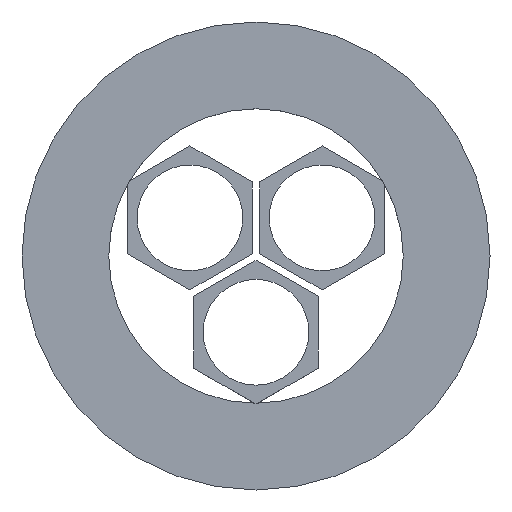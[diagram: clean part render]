
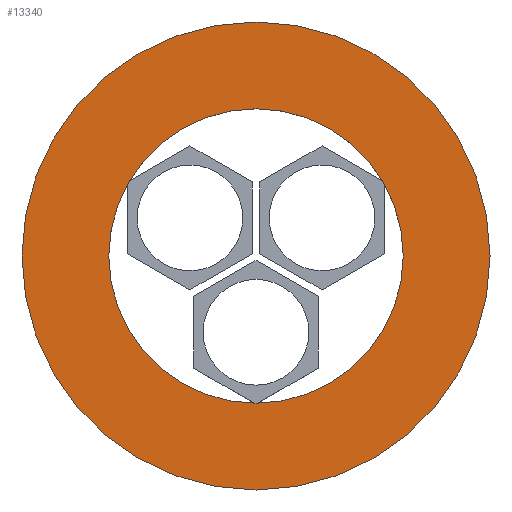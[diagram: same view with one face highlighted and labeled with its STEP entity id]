
A CAD part, front view. The second image highlights one B-rep face of the part: STEP entity #13340.
In plain terms, the highlighted planar face has unit normal (0, -1, 0).
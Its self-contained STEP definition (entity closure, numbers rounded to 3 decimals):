
#830=CARTESIAN_POINT('',(-69.654,193.131,
0.));
#840=VERTEX_POINT('',#830);
#1020=CARTESIAN_POINT('',(-30.654,193.131,
0.));
#1030=VERTEX_POINT('',#1020);
#1060=CARTESIAN_POINT('',(-50.154,193.131,
0.));
#1070=DIRECTION('',(0.,1.,0.));
#1080=DIRECTION('',(-1.,0.,0.));
#1090=AXIS2_PLACEMENT_3D('',#1060,#1070,#1080);
#1100=CIRCLE('',#1090,19.5);
#1110=EDGE_CURVE('',#1030,#840,#1100,.T.);
#13090=CARTESIAN_POINT('',(-34.654,193.131,
0.));
#13100=DIRECTION('',(0.,1.,0.));
#13110=DIRECTION('',(-1.,0.,0.));
#13120=AXIS2_PLACEMENT_3D('',#13090,#13100,#13110);
#13130=PLANE('',#13120);
#13140=CARTESIAN_POINT('',(-50.154,193.131,
0.));
#13150=DIRECTION('',(0.,1.,0.));
#13160=DIRECTION('',(1.,0.,0.));
#13170=AXIS2_PLACEMENT_3D('',#13140,#13150,#13160);
#13180=CIRCLE('',#13170,31.);
#13190=CARTESIAN_POINT('',(-19.154,193.131,
0.));
#13200=VERTEX_POINT('',#13190);
#13210=CARTESIAN_POINT('',(-81.154,193.131,
0.));
#13220=VERTEX_POINT('',#13210);
#13230=EDGE_CURVE('',#13200,#13220,#13180,.T.);
#13240=ORIENTED_EDGE('',*,*,#13230,.F.);
#13250=EDGE_CURVE('',#13220,#13200,#13180,.T.);
#13260=ORIENTED_EDGE('',*,*,#13250,.F.);
#13270=EDGE_LOOP('',(#13260,#13240));
#13280=FACE_OUTER_BOUND('',#13270,.T.);
#13290=EDGE_CURVE('',#840,#1030,#1100,.T.);
#13300=ORIENTED_EDGE('',*,*,#13290,.T.);
#13310=ORIENTED_EDGE('',*,*,#1110,.T.);
#13320=EDGE_LOOP('',(#13310,#13300));
#13330=FACE_BOUND('',#13320,.T.);
#13340=ADVANCED_FACE('',(#13280,#13330),#13130,.F.);
